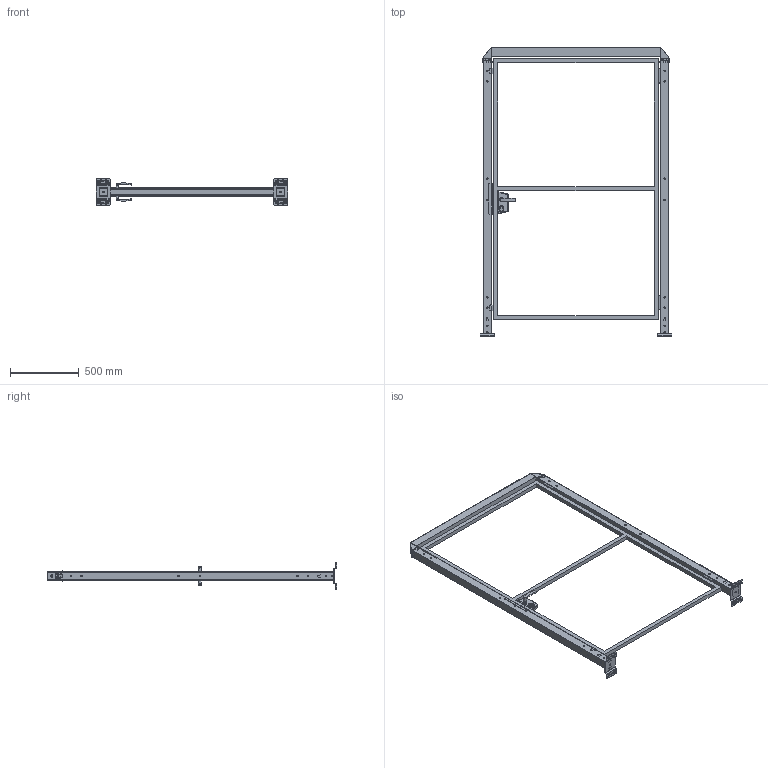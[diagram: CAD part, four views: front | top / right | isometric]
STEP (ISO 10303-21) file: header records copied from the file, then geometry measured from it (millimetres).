
FILE_DESCRIPTION(('STEP AP242'),'1');
FILE_NAME('vfda_bscgd03_12002020.stp','2025-01-31T11:25:17',('TraceParts'),('TraceParts S.A.'),'Spatial InterOp 3D',' ',' ');
FILE_SCHEMA(('AP242_MANAGED_MODEL_BASED_3D_ENGINEERING_MIM_LF {1 0 10303 442 1 1 4}'));
Length unit declared in the file: millimetre
Products named in the file (1): vfda_bscgd03_12002020_1
Bounding box: 1390 x 2101 x 192 mm (x, y, z)
Volume: 9179888.3 mm3; surface area: 3630625 mm2
Topology: 13 solids, 13 shells, 1629 faces, 4331 edges, 2766 vertices
Faces by surface type: plane 807, cylinder 554, bspline 194, cone 46, torus 28
Entity records: 67608 total; most frequent: CARTESIAN_POINT 14334, ORIENTED_EDGE 8662, DIRECTION 7987, EDGE_CURVE 4331, VERTEX_POINT 2766, AXIS2_PLACEMENT_3D 2674, LINE 2639, VECTOR 2639
